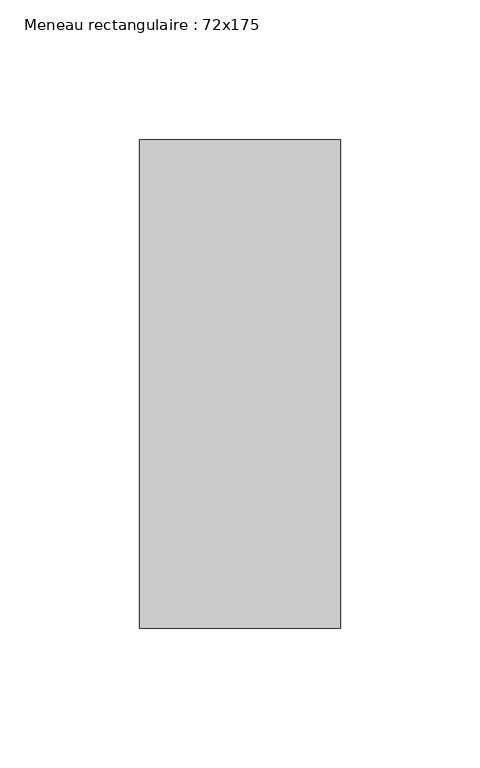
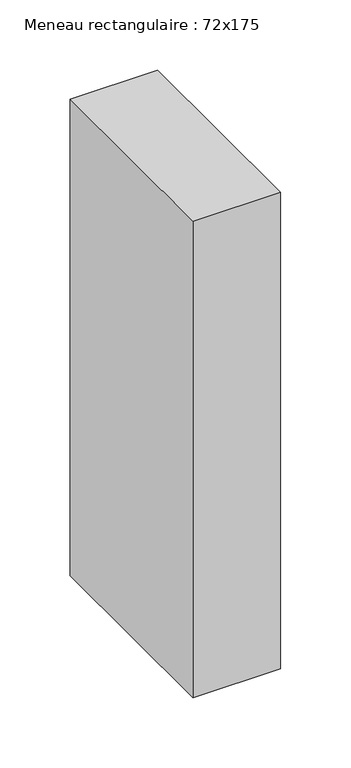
"""IFC4 building model written with IfcOpenShell, lengths in millimetres: member geometry, Meneau rectangulaire : 72x175."""

from ifc_helpers import new_model, si_unit, frame, origin, place, context, project, spatial, polyline, outline, extrude, source, transform, mapped, element, save


def meneau_rectangulaire_72x175_bec80b51(model_context):
    return source(origin(), model_context, "Body", "SweptSolid", [
        extrude(outline(polyline([(0.0, 87.5), (0.0, -87.5), (-72.0, -87.5), (-72.0, 87.5), (0.0, 87.5)])), frame((0.0, 0.0, -413.8823679), z_axis=(0.0, 0.0, 1.0), x_axis=(1.0, 0.0, 0.0)), (0.0, 0.0, 1.0), 413.8823679),
    ])


if __name__ == "__main__":
    model = new_model("IFC4")
    model_context = context("Model", 3, world=origin())
    ifc_project = project(units=[si_unit("LENGTHUNIT", "METRE", prefix="MILLI")], contexts=[model_context])
    site = spatial("IfcSite", under=ifc_project)
    building = spatial("IfcBuilding", under=site)
    placement = place(None, origin())
    meneau_rectangulaire_72x175_shape = meneau_rectangulaire_72x175_bec80b51(model_context)
    element("IfcMember", 1, ObjectType="Meneau rectangulaire : 72x175", at=placement, inside=building, context=model_context, shape_type="MappedRepresentation", body=[
        mapped(meneau_rectangulaire_72x175_shape, transform((0.0, 0.0, 0.0), x_axis=(1.0, 0.0, 0.0), y_axis=(0.0, 1.0, 0.0), z_axis=(0.0, 0.0, 1.0))),
    ])
    save(model, "model.ifc")
